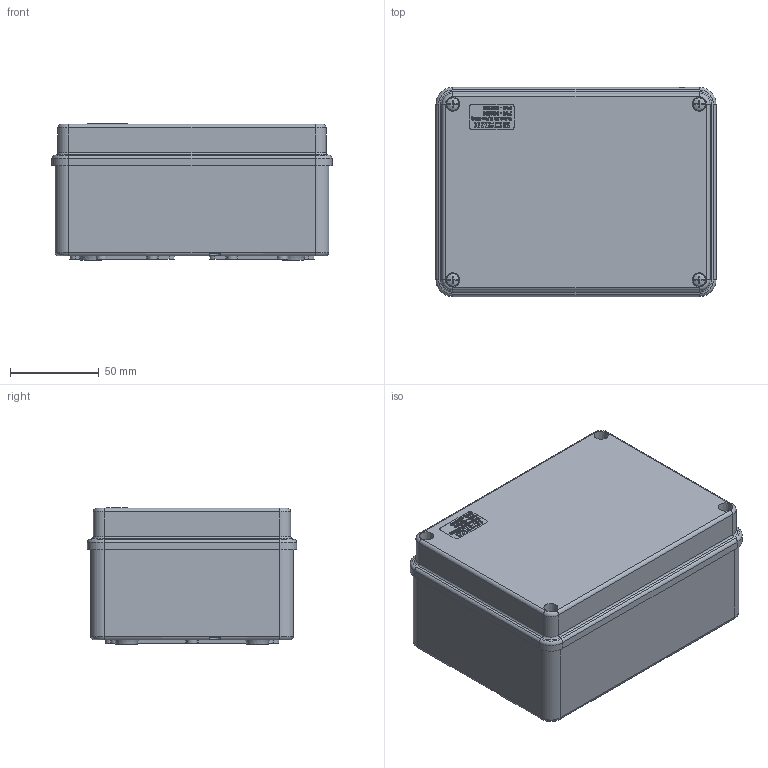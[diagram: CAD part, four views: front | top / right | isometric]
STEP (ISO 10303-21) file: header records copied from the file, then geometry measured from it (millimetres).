
FILE_DESCRIPTION(/* description */ (''),/* implementation_level */ '2;1');
FILE_NAME(/* name */ '4003375.stp',/* time_stamp */ '2019-04-12T09:04:04+02:00',/* author */ (''),/* organization */ (''),/* preprocessor_version */ 'ST-DEVELOPER v16.7',/* originating_system */ 'SIEMENS PLM Software NX 1855',/* authorisation */ '');
FILE_SCHEMA (('AUTOMOTIVE_DESIGN { 1 0 10303 214 3 1 1 1 }'));
Products named in the file (1): BSOM605861F5uejj
Bounding box: 158.2 x 118.2 x 77.05 mm (x, y, z)
Volume: 194481.3 mm3; surface area: 180515.2 mm2
Topology: 7 solids, 7 shells, 1617 faces, 4261 edges, 2797 vertices
Faces by surface type: plane 708, extrusion 466, cylinder 261, cone 100, torus 64, bspline 10, sphere 8
Full cylindrical faces by diameter (mm): 2.2 x4, 3.2 x8, 4 x4, 7.5 x4, 10 x6
Entity records: 61239 total; most frequent: CARTESIAN_POINT 21283, ORIENTED_EDGE 8244, DIRECTION 6226, EDGE_CURVE 4122, VERTEX_POINT 2746, VECTOR 2334, AXIS2_PLACEMENT_3D 1946, B_SPLINE_CURVE_WITH_KNOTS 1916
